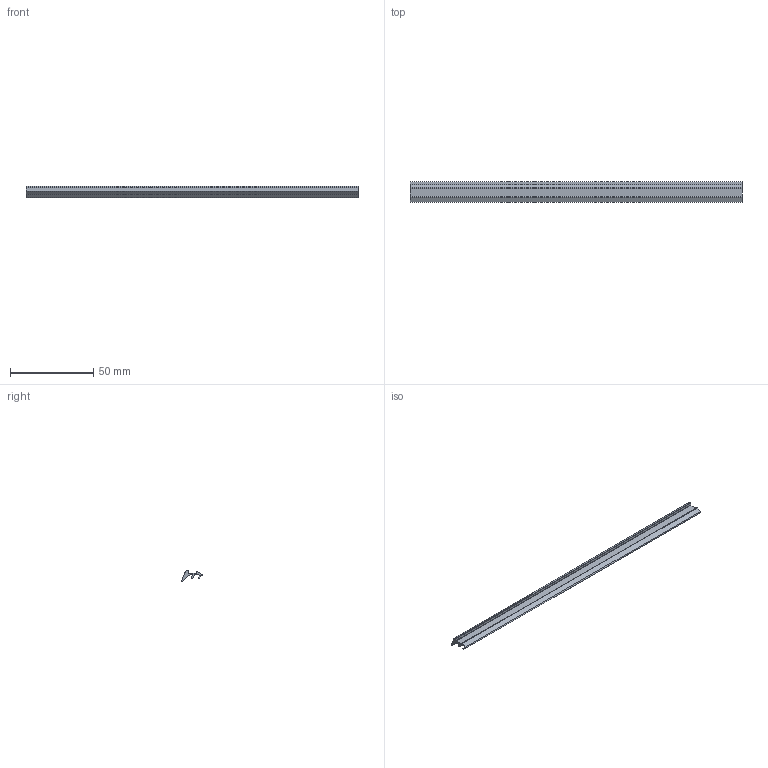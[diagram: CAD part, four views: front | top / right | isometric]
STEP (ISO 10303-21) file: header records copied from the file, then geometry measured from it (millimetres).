
FILE_DESCRIPTION (( 'STEP AP214' ), '1' );
FILE_NAME ('1.6022 Paneelitiiviste 6.STEP', '2024-03-13T12:39:33', ( '' ), ( '' ), 'SwSTEP 2.0', 'SolidWorks 2024', '' );
FILE_SCHEMA (( 'AUTOMOTIVE_DESIGN' ));
Length unit declared in the file: millimetre
Products named in the file (1): 1.6022 Paneelitiiviste 6
Bounding box: 200 x 12.3 x 6.8 mm (x, y, z)
Volume: 5193 mm3; surface area: 8430.2 mm2
Topology: 1 solids, 1 shells, 33 faces, 93 edges, 62 vertices
Faces by surface type: cylinder 17, plane 16
Entity records: 1467 total; most frequent: DIRECTION 195, CARTESIAN_POINT 189, ORIENTED_EDGE 186, EDGE_CURVE 93, AXIS2_PLACEMENT_3D 68, VERTEX_POINT 62, VECTOR 59, LINE 59
